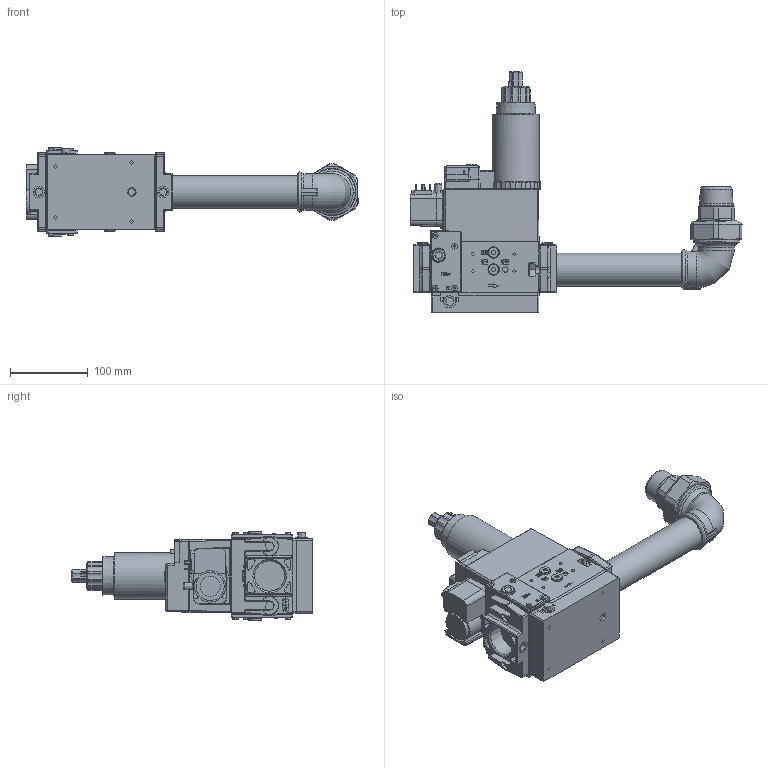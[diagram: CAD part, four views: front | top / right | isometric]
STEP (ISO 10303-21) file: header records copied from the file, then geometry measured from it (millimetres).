
FILE_DESCRIPTION (( 'STEP AP203' ), '1' );
FILE_NAME ('19990512-112743.step', '2016-12-15T10:36:35', ( '' ), ( '' ), 'SwSTEP 2.0', 'SolidWorks 2016', '' );
FILE_SCHEMA (( 'CONFIG_CONTROL_DESIGN' ));
Products named in the file (8): 23946-112714-AUTO; 0005040038-03745; 23946-112713; 23239-03493; 0005180004-03490; 0006020419-03487; 31341-03516; 19990512-112743
Assembly tree (8 placements, depth 3):
  19990512-112743
    23946-112713
      23946-112714-AUTO
      0005040038-03745
    23239-03493
    0005180004-03490
    0006020419-03487
    31341-03516  x2
Bounding box: 427.74 x 310 x 115 mm (x, y, z)
Volume: 3013130.4 mm3; surface area: 300618.3 mm2
Topology: 7 solids, 7 shells, 3031 faces, 7873 edges, 5031 vertices
Faces by surface type: plane 1344, bspline 812, cylinder 568, torus 180, cone 115, sphere 12
Full cylindrical faces by diameter (mm): 0.7 x2, 1.5 x1, 2 x12, 2.459 x1, 2.5 x2, 5.391 x4, 7 x9, 7.3 x1, 8 x11, 9 x1, 10.6 x2, 11.359 x1, 14 x6, 15 x11, 15.2 x1, 15.8 x1, 26 x1, 35.9 x1, 36.15 x1, 38.952 x1, 42.4 x1, 43 x1, 49.997 x1, 52.7 x1, 53 x1, 56 x1, 59.61 x1, 60 x1
Entity records: 116048 total; most frequent: CARTESIAN_POINT 57742, ORIENTED_EDGE 13508, DIRECTION 8641, EDGE_CURVE 6754, VERTEX_POINT 4458, LINE 3325, VECTOR 3325, EDGE_LOOP 3090
